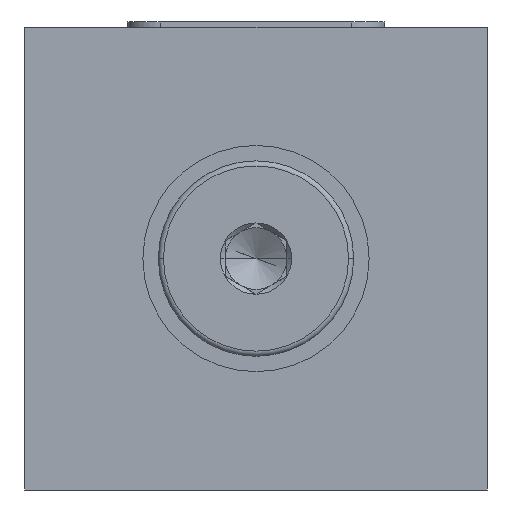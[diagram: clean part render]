
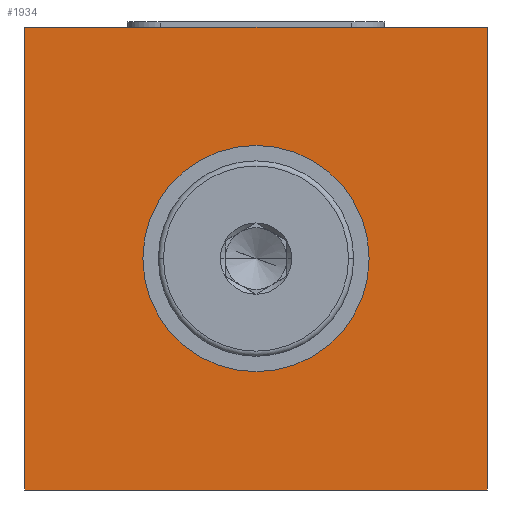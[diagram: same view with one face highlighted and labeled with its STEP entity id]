
A CAD part, left-side view. The second image highlights one B-rep face of the part: STEP entity #1934.
In plain terms, the highlighted planar face has unit normal (-1, 0, 0).
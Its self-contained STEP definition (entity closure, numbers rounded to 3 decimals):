
#61=DIRECTION('',(0.,-1.,0.));
#62=VECTOR('',#61,45.);
#63=CARTESIAN_POINT('',(-9.5,45.,-22.5));
#64=LINE('',#63,#62);
#68=DIRECTION('',(0.,0.,1.));
#69=VECTOR('',#68,45.);
#70=CARTESIAN_POINT('',(-9.5,0.,-22.5));
#71=LINE('',#70,#69);
#219=DIRECTION('',(0.,0.,1.));
#220=VECTOR('',#219,45.);
#221=CARTESIAN_POINT('',(-9.5,45.,-22.5));
#222=LINE('',#221,#220);
#226=CARTESIAN_POINT('',(-9.5,22.5,0.));
#227=DIRECTION('',(1.,0.,0.));
#228=DIRECTION('',(0.,-1.,0.));
#229=AXIS2_PLACEMENT_3D('',#226,#227,#228);
#234=CARTESIAN_POINT('',(-9.5,22.5,0.));
#235=DIRECTION('',(1.,0.,0.));
#236=DIRECTION('',(0.,1.,0.));
#237=AXIS2_PLACEMENT_3D('',#234,#235,#236);
#423=DIRECTION('',(0.,-1.,0.));
#424=VECTOR('',#423,45.);
#425=CARTESIAN_POINT('',(-9.5,45.,22.5));
#426=LINE('',#425,#424);
#1582=CARTESIAN_POINT('',(-9.5,0.,-22.5));
#1584=VERTEX_POINT('',#1582);
#1588=CARTESIAN_POINT('',(-9.5,45.,-22.5));
#1589=VERTEX_POINT('',#1588);
#1590=CARTESIAN_POINT('',(-9.5,0.,22.5));
#1592=VERTEX_POINT('',#1590);
#1596=CARTESIAN_POINT('',(-9.5,45.,22.5));
#1597=VERTEX_POINT('',#1596);
#1824=CARTESIAN_POINT('',(-9.5,11.5,0.));
#1825=VERTEX_POINT('',#1824);
#1826=CARTESIAN_POINT('',(-9.5,33.5,0.));
#1827=VERTEX_POINT('',#1826);
#1915=CARTESIAN_POINT('',(-9.5,45.,-22.5));
#1916=DIRECTION('',(-1.,0.,0.));
#1917=DIRECTION('',(0.,-1.,0.));
#1918=AXIS2_PLACEMENT_3D('',#1915,#1916,#1917);
#1919=PLANE('',#1918);
#1920=ORIENTED_EDGE('',*,*,#1841,.F.);
#1922=ORIENTED_EDGE('',*,*,#1921,.T.);
#1924=ORIENTED_EDGE('',*,*,#1923,.T.);
#1925=ORIENTED_EDGE('',*,*,#1852,.F.);
#1926=EDGE_LOOP('',(#1920,#1922,#1924,#1925));
#1927=FACE_OUTER_BOUND('',#1926,.F.);
#1929=ORIENTED_EDGE('',*,*,#1928,.F.);
#1931=ORIENTED_EDGE('',*,*,#1930,.F.);
#1932=EDGE_LOOP('',(#1929,#1931));
#1933=FACE_BOUND('',#1932,.F.);
#230=CIRCLE('',#229,11.);
#238=CIRCLE('',#237,11.);
#1841=EDGE_CURVE('',#1589,#1584,#64,.T.);
#1852=EDGE_CURVE('',#1584,#1592,#71,.T.);
#1921=EDGE_CURVE('',#1589,#1597,#222,.T.);
#1923=EDGE_CURVE('',#1597,#1592,#426,.T.);
#1928=EDGE_CURVE('',#1825,#1827,#230,.T.);
#1930=EDGE_CURVE('',#1827,#1825,#238,.T.);
#1934=ADVANCED_FACE('',(#1927,#1933),#1919,.T.);
